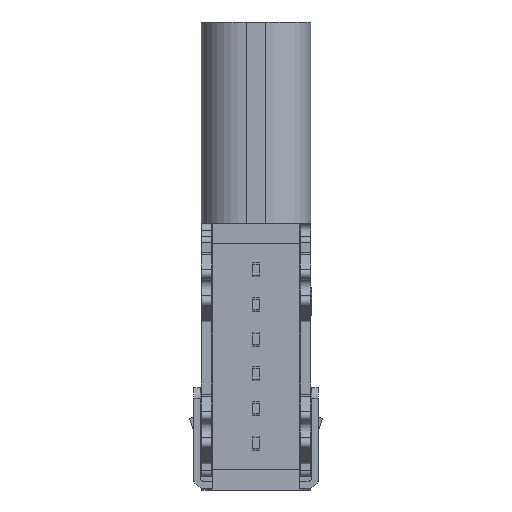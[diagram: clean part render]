
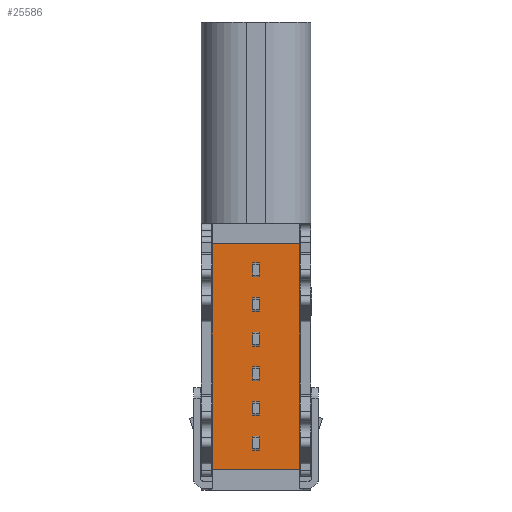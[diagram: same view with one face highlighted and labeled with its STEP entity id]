
A CAD part, left-side view. The second image highlights one B-rep face of the part: STEP entity #25586.
In plain terms, the highlighted planar face has unit normal (-1, 0, 0).
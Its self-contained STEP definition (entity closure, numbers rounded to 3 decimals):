
#584 = CARTESIAN_POINT ( 'NONE',  ( -3.755, 19.07, -12.5 ) ) ;
#1180 = CARTESIAN_POINT ( 'NONE',  ( -3.755, 19.07, -6. ) ) ;
#1806 = EDGE_CURVE ( 'NONE', #2995, #27295, #32635, .T. ) ;
#2995 = VERTEX_POINT ( 'NONE', #584 ) ;
#3215 = VECTOR ( 'NONE', #26534, 1000. ) ;
#4124 = FACE_OUTER_BOUND ( 'NONE', #27575, .T. ) ;
#4785 = LINE ( 'NONE', #38476, #11106 ) ;
#4987 = VERTEX_POINT ( 'NONE', #37329 ) ;
#6040 = EDGE_CURVE ( 'NONE', #10106, #2995, #35398, .T. ) ;
#6190 = CARTESIAN_POINT ( 'NONE',  ( -3.755, 19.07, -6. ) ) ;
#6244 = CARTESIAN_POINT ( 'NONE',  ( -3.755, 21.58, -6. ) ) ;
#6829 = ORIENTED_EDGE ( 'NONE', *, *, #6040, .F. ) ;
#7232 = CARTESIAN_POINT ( 'NONE',  ( -3.755, 21.58, -12.5 ) ) ;
#7267 = DIRECTION ( 'NONE',  ( 0., 0., 1. ) ) ;
#8929 = VECTOR ( 'NONE', #14703, 1000. ) ;
#10064 = ORIENTED_EDGE ( 'NONE', *, *, #11341, .T. ) ;
#10106 = VERTEX_POINT ( 'NONE', #6190 ) ;
#10495 = ORIENTED_EDGE ( 'NONE', *, *, #24267, .T. ) ;
#11106 = VECTOR ( 'NONE', #17214, 1000. ) ;
#11341 = EDGE_CURVE ( 'NONE', #10106, #4987, #4785, .T. ) ;
#11353 = CARTESIAN_POINT ( 'NONE',  ( -3.755, 19.07, -12.5 ) ) ;
#13733 = AXIS2_PLACEMENT_3D ( 'NONE', #1180, #19871, #7267 ) ;
#14703 = DIRECTION ( 'NONE',  ( 0., 0., -1. ) ) ;
#17214 = DIRECTION ( 'NONE',  ( 0., 1., 0. ) ) ;
#19871 = DIRECTION ( 'NONE',  ( -1., 0., 0. ) ) ;
#24267 = EDGE_CURVE ( 'NONE', #4987, #27295, #35802, .T. ) ;
#25586 = ADVANCED_FACE ( 'NONE', ( #4124 ), #28727, .T. ) ;
#26534 = DIRECTION ( 'NONE',  ( 0., 1., 0. ) ) ;
#27295 = VERTEX_POINT ( 'NONE', #7232 ) ;
#27575 = EDGE_LOOP ( 'NONE', ( #10064, #10495, #30921, #6829 ) ) ;
#28727 = PLANE ( 'NONE',  #13733 ) ;
#30921 = ORIENTED_EDGE ( 'NONE', *, *, #1806, .F. ) ;
#32635 = LINE ( 'NONE', #11353, #3215 ) ;
#35398 = LINE ( 'NONE', #38933, #8929 ) ;
#35802 = LINE ( 'NONE', #6244, #37351 ) ;
#37329 = CARTESIAN_POINT ( 'NONE',  ( -3.755, 21.58, -6. ) ) ;
#37351 = VECTOR ( 'NONE', #38576, 1000. ) ;
#38476 = CARTESIAN_POINT ( 'NONE',  ( -3.755, 19.07, -6. ) ) ;
#38576 = DIRECTION ( 'NONE',  ( 0., 0., -1. ) ) ;
#38933 = CARTESIAN_POINT ( 'NONE',  ( -3.755, 19.07, -6. ) ) ;
